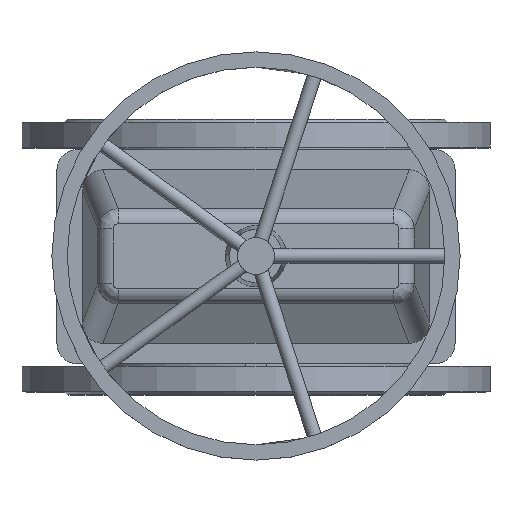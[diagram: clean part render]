
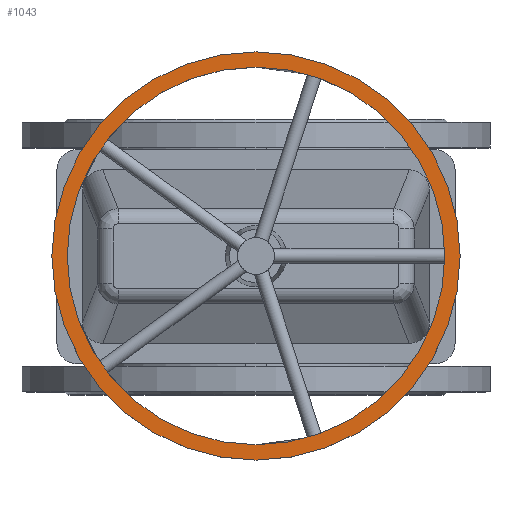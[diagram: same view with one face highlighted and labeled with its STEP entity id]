
A CAD part, top view. The second image highlights one B-rep face of the part: STEP entity #1043.
In plain terms, the highlighted planar face has unit normal (0, 0, 1).
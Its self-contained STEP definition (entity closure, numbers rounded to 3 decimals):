
#1043=ADVANCED_FACE('',(#2324,#2326),#2328,.T.);
#2324=FACE_BOUND('',#2325,.T.);
#2325=EDGE_LOOP('',(#2845));
#2326=FACE_BOUND('',#2327,.T.);
#2327=EDGE_LOOP('',(#2846));
#2328=PLANE('',#2329);
#2329=AXIS2_PLACEMENT_3D('',#2330,#2331,#2332);
#2330=CARTESIAN_POINT('',(0.,0.,695.5));
#2331=DIRECTION('',(0.,0.,1.));
#2332=DIRECTION('',(0.,-1.,0.));
#2845=ORIENTED_EDGE('',*,*,#3099,.T.);
#2846=ORIENTED_EDGE('',*,*,#3097,.T.);
#3097=EDGE_CURVE('',#3531,#3531,#3532,.F.);
#3099=EDGE_CURVE('',#3535,#3535,#3536,.T.);
#3531=VERTEX_POINT('',#5715);
#3532=CIRCLE('',#5716,185.);
#3535=VERTEX_POINT('',#5725);
#3536=CIRCLE('',#5726,200.);
#5715=CARTESIAN_POINT('',(0.,-185.,695.5));
#5716=AXIS2_PLACEMENT_3D('',#5717,#5718,#5719);
#5717=CARTESIAN_POINT('',(0.,0.,695.5));
#5718=DIRECTION('',(0.,0.,1.));
#5719=DIRECTION('',(0.,-1.,0.));
#5725=CARTESIAN_POINT('',(0.,-200.,695.5));
#5726=AXIS2_PLACEMENT_3D('',#5727,#5728,#5729);
#5727=CARTESIAN_POINT('',(0.,0.,695.5));
#5728=DIRECTION('',(0.,0.,1.));
#5729=DIRECTION('',(0.,-1.,0.));
